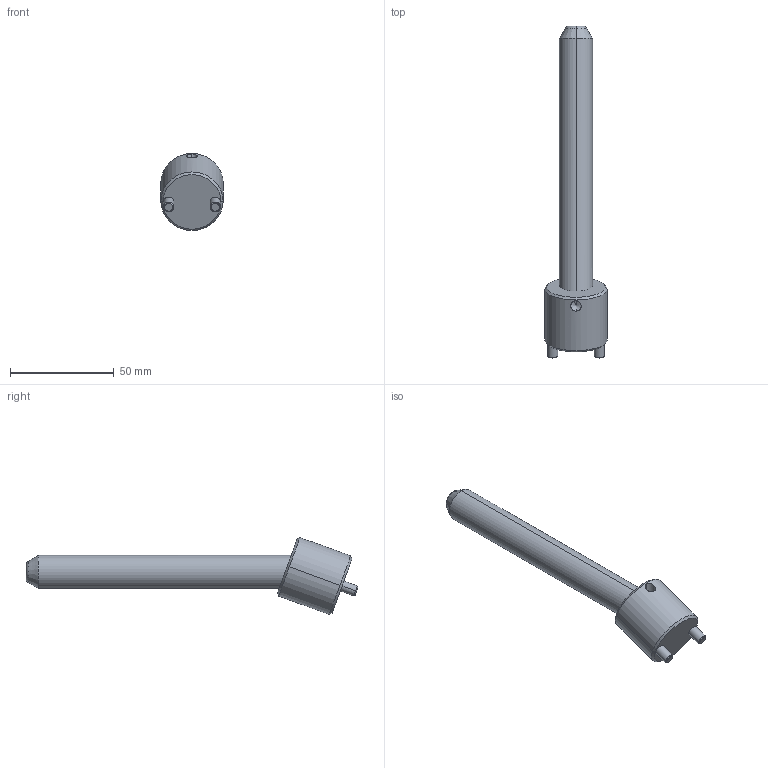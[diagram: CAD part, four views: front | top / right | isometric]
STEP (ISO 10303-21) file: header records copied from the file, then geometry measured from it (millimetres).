
FILE_DESCRIPTION(('CATIA V5 STEP Exchange'),'2;1');
FILE_NAME('C:\Users\Raffaele\Desktop\3D BOLEX\3D FILES CF BOLEX\19-INCLINED ASSEMBLY REF_CI\CI2016125.stp','2019-06-24T06:40:48+00:00',('none'),('none'),'CATIA Version 5 Release 20 GA (IN-10)','CATIA V5 STEP AP203','none');
FILE_SCHEMA(('CONFIG_CONTROL_DESIGN'));
Length unit declared in the file: millimetre
Products named in the file (1): CI2016125
Assembly tree (2 placements, depth 2):
  CI2016125
    #58
    #578
Bounding box: 30 x 160.07 x 37.08 mm (x, y, z)
Volume: 44391.3 mm3; surface area: 13205.7 mm2
Topology: 2 solids, 2 shells, 39 faces, 82 edges, 47 vertices
Faces by surface type: cone 14, cylinder 14, plane 7, torus 4
Entity records: 1479 total; most frequent: CARTESIAN_POINT 620, ORIENTED_EDGE 160, DIRECTION 145, EDGE_CURVE 80, AXIS2_PLACEMENT_3D 72, VERTEX_POINT 47, EDGE_LOOP 43, ADVANCED_FACE 39
